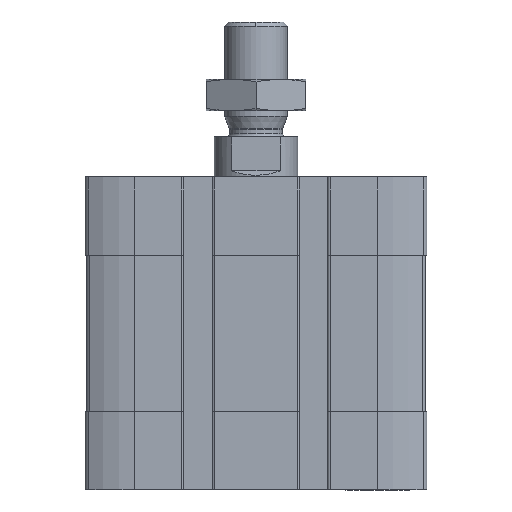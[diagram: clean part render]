
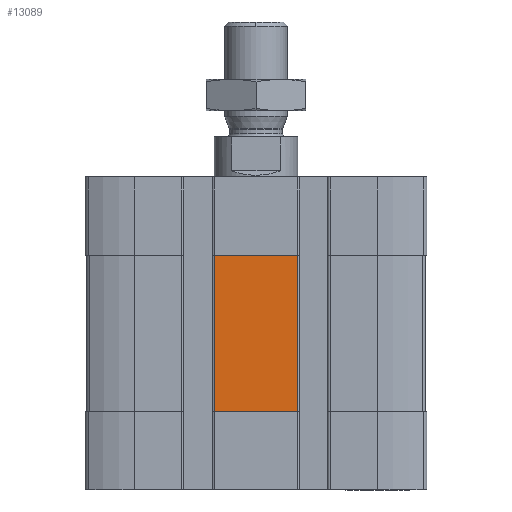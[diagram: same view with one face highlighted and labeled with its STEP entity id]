
A CAD part, front view. The second image highlights one B-rep face of the part: STEP entity #13089.
In plain terms, the highlighted planar face has unit normal (0, -1, 0).
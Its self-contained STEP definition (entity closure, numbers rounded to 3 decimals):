
#657 = ORIENTED_EDGE ( 'NONE', *, *, #9603, .T. ) ;
#711 = ORIENTED_EDGE ( 'NONE', *, *, #11283, .T. ) ;
#1708 = DIRECTION ( 'NONE',  ( 1., 0., 0. ) ) ;
#2454 = DIRECTION ( 'NONE',  ( 0., 0., -1. ) ) ;
#2621 = LINE ( 'NONE', #8936, #12550 ) ;
#2831 = CARTESIAN_POINT ( 'NONE',  ( -8., -32.5, -15. ) ) ;
#3151 = VERTEX_POINT ( 'NONE', #8698 ) ;
#3812 = EDGE_LOOP ( 'NONE', ( #5617, #711, #657, #9460 ) ) ;
#4517 = CARTESIAN_POINT ( 'NONE',  ( -8., -32.5, -45. ) ) ;
#5309 = LINE ( 'NONE', #12089, #8604 ) ;
#5617 = ORIENTED_EDGE ( 'NONE', *, *, #12381, .T. ) ;
#6511 = VERTEX_POINT ( 'NONE', #2831 ) ;
#6990 = PLANE ( 'NONE',  #10686 ) ;
#7057 = DIRECTION ( 'NONE',  ( 0., 0., 1. ) ) ;
#7340 = VERTEX_POINT ( 'NONE', #8051 ) ;
#8051 = CARTESIAN_POINT ( 'NONE',  ( -8., -32.5, -45. ) ) ;
#8224 = DIRECTION ( 'NONE',  ( 0., 0., -1. ) ) ;
#8269 = VERTEX_POINT ( 'NONE', #12296 ) ;
#8310 = EDGE_CURVE ( 'NONE', #6511, #7340, #12758, .T. ) ;
#8604 = VECTOR ( 'NONE', #7057, 1000. ) ;
#8698 = CARTESIAN_POINT ( 'NONE',  ( 8., -32.5, -15. ) ) ;
#8936 = CARTESIAN_POINT ( 'NONE',  ( 0., -32.5, -15. ) ) ;
#9460 = ORIENTED_EDGE ( 'NONE', *, *, #8310, .T. ) ;
#9603 = EDGE_CURVE ( 'NONE', #3151, #6511, #2621, .T. ) ;
#9865 = CARTESIAN_POINT ( 'NONE',  ( -8., -32.5, -45. ) ) ;
#10686 = AXIS2_PLACEMENT_3D ( 'NONE', #4517, #15676, #8224 ) ;
#10741 = VECTOR ( 'NONE', #1708, 1000. ) ;
#11283 = EDGE_CURVE ( 'NONE', #8269, #3151, #5309, .T. ) ;
#12089 = CARTESIAN_POINT ( 'NONE',  ( 8., -32.5, -45. ) ) ;
#12296 = CARTESIAN_POINT ( 'NONE',  ( 8., -32.5, -45. ) ) ;
#12381 = EDGE_CURVE ( 'NONE', #7340, #8269, #14427, .T. ) ;
#12392 = VECTOR ( 'NONE', #2454, 1000. ) ;
#12550 = VECTOR ( 'NONE', #13861, 1000. ) ;
#12758 = LINE ( 'NONE', #9865, #12392 ) ;
#13089 = ADVANCED_FACE ( 'NONE', ( #15943 ), #6990, .T. ) ;
#13861 = DIRECTION ( 'NONE',  ( -1., 0., 0. ) ) ;
#14083 = CARTESIAN_POINT ( 'NONE',  ( -8., -32.5, -45. ) ) ;
#14427 = LINE ( 'NONE', #14083, #10741 ) ;
#15676 = DIRECTION ( 'NONE',  ( 0., -1., 0. ) ) ;
#15943 = FACE_OUTER_BOUND ( 'NONE', #3812, .T. ) ;
